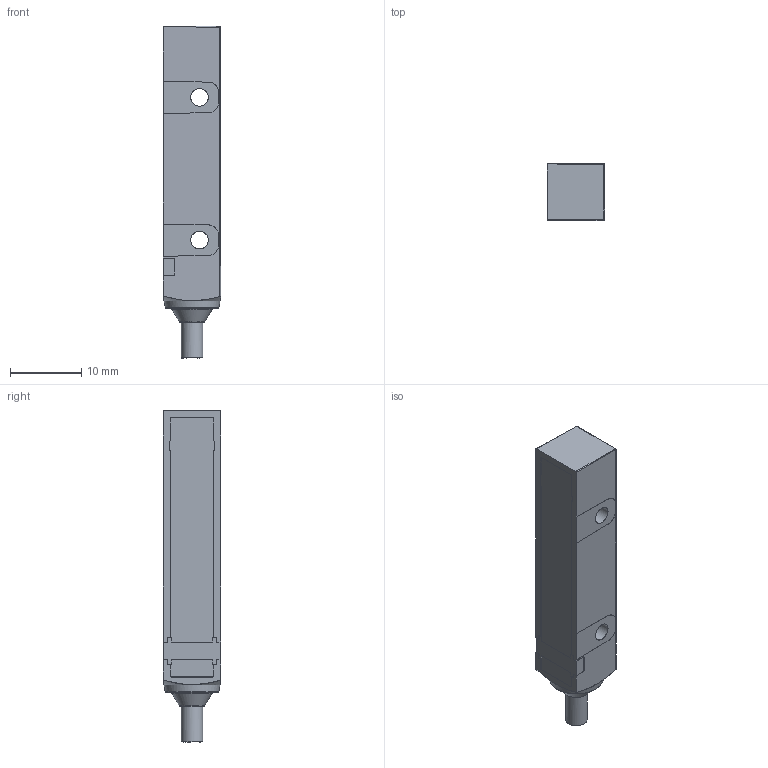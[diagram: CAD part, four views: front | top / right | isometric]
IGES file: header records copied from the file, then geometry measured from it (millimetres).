
Start section: C
Global section: file name: IFFM 08xxx01_O1L_G2.igs; native system:  By UGS Corp.; preprocessor: XPlus GENERIC/IGES 3.0; author: Author; organization: Title; date: 20150817.081531; units: millimetre
Bounding box: 8 x 8 x 46.5 mm (x, y, z)
Surface area: 1539.1 mm2 (no closed solid volume)
Topology: 0 solids, 0 shells, 158 faces, 912 edges, 910 vertices
Faces by surface type: bspline 158
